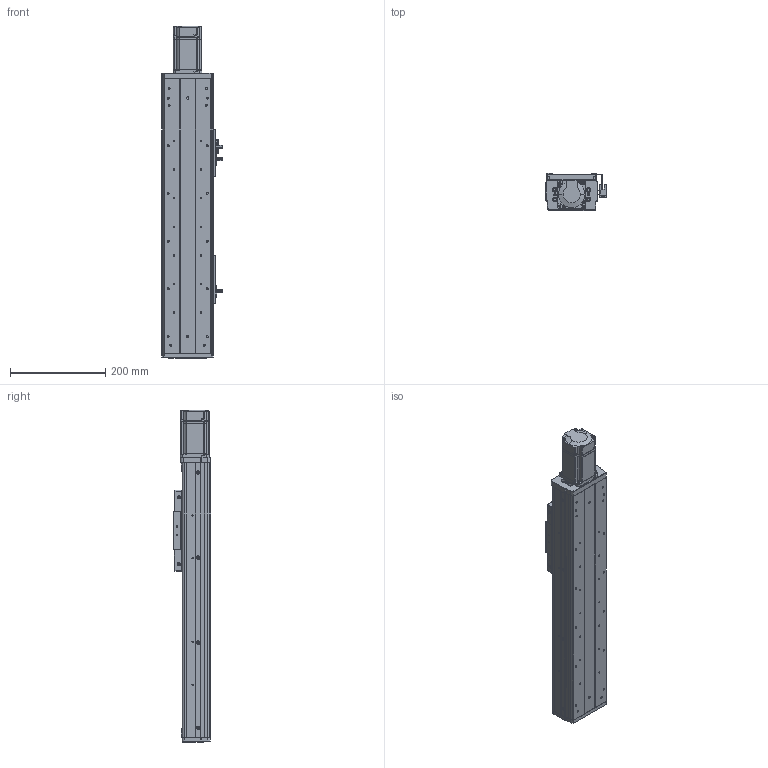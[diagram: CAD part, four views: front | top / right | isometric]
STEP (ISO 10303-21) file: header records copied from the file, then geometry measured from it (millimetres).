
FILE_DESCRIPTION (( 'STEP AP203' ), '1' );
FILE_NAME ('RY100FS-300-MK(15双轨).SLDASM_300.step', '2021-03-02T05:50:27', ( '盈信电脑' ), ( '东莞市道滘镇水果街19号' ), 'SwSTEP 2.0', 'SolidWorks 2012', '' );
FILE_SCHEMA (( 'CONFIG_CONTROL_DESIGN' ));
Products named in the file (20): 滅袉蝶14-35; RY100FS-300-MK(15邧寢).SLDASM_300; 滅袉蝶14-24; RY100FS-15絳寢萇儂假蚾啣(200W PCD70 M4); RY100F-詩湍揤踡輸; RY100FS-双轨螺母座(16丝杆）; 672嫖萇羲壽假蚾釱; RY80俋离覜茼え; 覜茼ん672; RY100F-詩湍揤踡謫; RY100F-綴裔啣; 1; 侂狟200W萇儂; RY100F-滅鳥裔啣; RY100FS-双轨铝滑块(上板）; 棠沺沭; RY100F-詩湍幗謫粣; RY100FS-300-MK15邧寢祥凄詩湍; RY100FS-300-MK15絳寢倰第菁釱; RY100FS-300-MK15絳寢倰第奻裔啣
Assembly tree (27 placements, depth 3):
  RY100FS-300-MK(15邧寢).SLDASM_300
    RY100FS-300-MK15絳寢倰第菁釱
    RY100FS-300-MK15絳寢倰第奻裔啣  x2
    RY100FS-300-MK15邧寢祥凄詩湍
    RY100FS-双轨铝滑块(上板）
    RY100F-滅鳥裔啣
    棠沺沭  x2
    RY100F-詩湍幗謫粣
    RY100F-詩湍揤踡謫  x2
    侂狟200W萇儂
      1
    RY100F-綴裔啣
    672嫖萇羲壽假蚾釱  x2
    RY80俋离覜茼え  x2
    覜茼ん672  x3
    RY100F-詩湍揤踡輸  x2
    RY100FS-15絳寢萇儂假蚾啣(200W PCD70 M4)
    RY100FS-双轨螺母座(16丝杆）
    滅袉蝶14-24
    滅袉蝶14-35
Bounding box: 126.2 x 78.5 x 696 mm (x, y, z)
Volume: 1719006.5 mm3; surface area: 660878.5 mm2
Topology: 26 solids, 26 shells, 1958 faces, 5312 edges, 3450 vertices
Faces by surface type: plane 963, cylinder 834, cone 136, bspline 25
Entity records: 54932 total; most frequent: CARTESIAN_POINT 11027, DIRECTION 8745, ORIENTED_EDGE 8604, EDGE_CURVE 4302, AXIS2_PLACEMENT_3D 3062, VERTEX_POINT 2830, LINE 2621, VECTOR 2621
